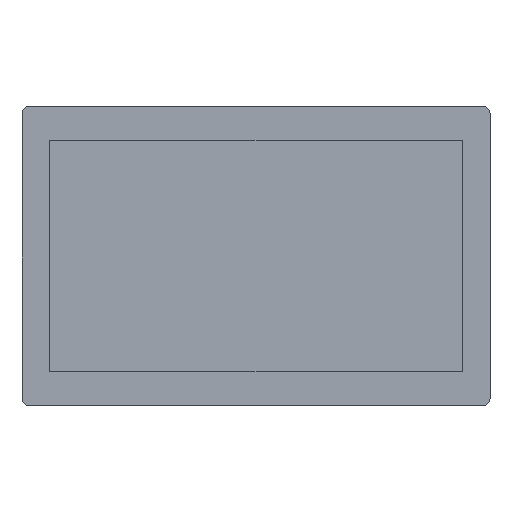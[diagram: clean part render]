
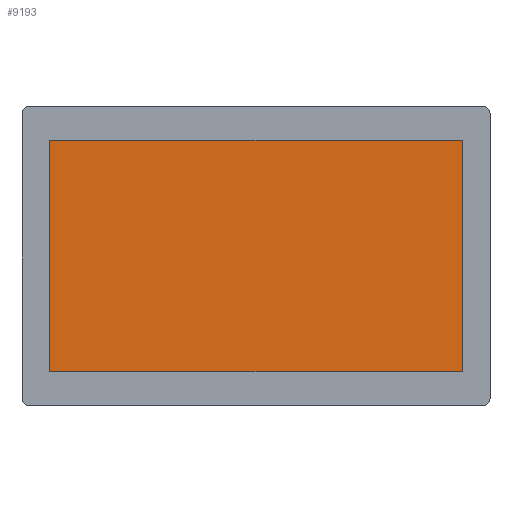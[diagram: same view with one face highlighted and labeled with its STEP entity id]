
A CAD part, top view. The second image highlights one B-rep face of the part: STEP entity #9193.
In plain terms, the highlighted planar face has unit normal (0, 0, 1).
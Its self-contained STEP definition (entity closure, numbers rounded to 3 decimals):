
#2338=DIRECTION('',(0.,-1.,0.));
#2339=VECTOR('',#2338,192.59);
#2340=CARTESIAN_POINT('',(169.38,103.74,3.85));
#2341=LINE('',#2340,#2339);
#2342=DIRECTION('',(-1.,0.,0.));
#2343=VECTOR('',#2342,343.16);
#2344=CARTESIAN_POINT('',(169.38,-88.85,3.85));
#2345=LINE('',#2344,#2343);
#2346=DIRECTION('',(0.,1.,0.));
#2347=VECTOR('',#2346,192.59);
#2348=CARTESIAN_POINT('',(-173.78,-88.85,3.85));
#2349=LINE('',#2348,#2347);
#2350=DIRECTION('',(1.,0.,0.));
#2351=VECTOR('',#2350,343.16);
#2352=CARTESIAN_POINT('',(-173.78,103.74,3.85));
#2353=LINE('',#2352,#2351);
#4856=CARTESIAN_POINT('',(169.38,-88.85,3.85));
#4857=VERTEX_POINT('',#4856);
#4858=CARTESIAN_POINT('',(169.38,103.74,3.85));
#4859=VERTEX_POINT('',#4858);
#4860=CARTESIAN_POINT('',(-173.78,-88.85,3.85));
#4861=VERTEX_POINT('',#4860);
#4862=CARTESIAN_POINT('',(-173.78,103.74,3.85));
#4863=VERTEX_POINT('',#4862);
#9182=CARTESIAN_POINT('',(178.73,-96.785,3.85));
#9183=DIRECTION('',(0.,0.,1.));
#9184=DIRECTION('',(-1.,0.,0.));
#9185=AXIS2_PLACEMENT_3D('',#9182,#9183,#9184);
#9186=PLANE('',#9185);
#9187=ORIENTED_EDGE('',*,*,#9106,.T.);
#9188=ORIENTED_EDGE('',*,*,#9128,.T.);
#9189=ORIENTED_EDGE('',*,*,#9149,.T.);
#9190=ORIENTED_EDGE('',*,*,#9169,.T.);
#9191=EDGE_LOOP('',(#9187,#9188,#9189,#9190));
#9192=FACE_OUTER_BOUND('',#9191,.F.);
#9106=EDGE_CURVE('',#4859,#4857,#2341,.T.);
#9128=EDGE_CURVE('',#4857,#4861,#2345,.T.);
#9149=EDGE_CURVE('',#4861,#4863,#2349,.T.);
#9169=EDGE_CURVE('',#4863,#4859,#2353,.T.);
#9193=ADVANCED_FACE('',(#9192),#9186,.T.);
